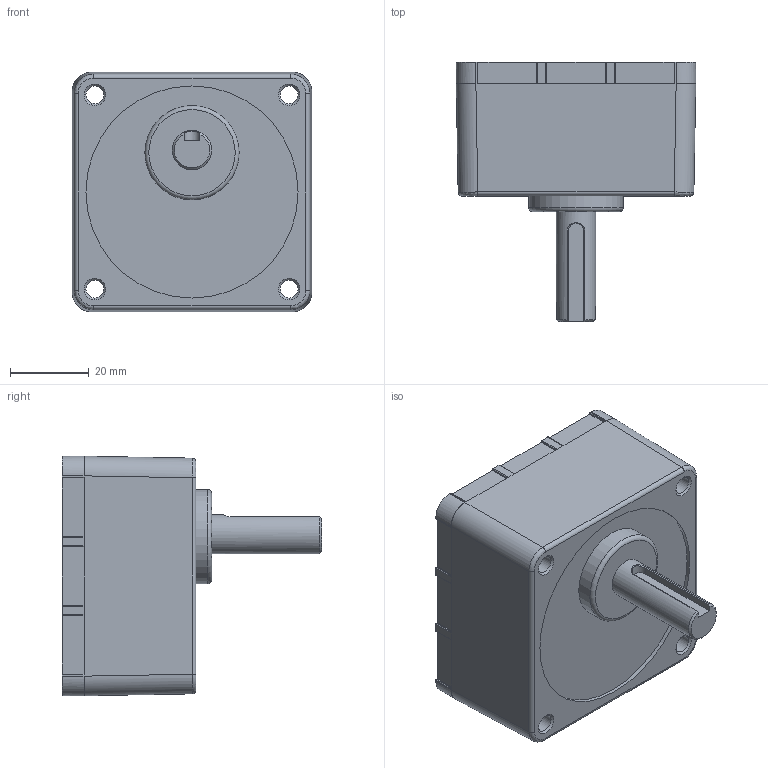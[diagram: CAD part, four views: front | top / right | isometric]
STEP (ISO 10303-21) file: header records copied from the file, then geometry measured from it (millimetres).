
FILE_DESCRIPTION((''),'2;1');
FILE_NAME('E:\2공장-도면\3D\STEP FILE\K6H(5~20)B.stp','2014-08-18T15:41:46',('輺'),(''),'Autodesk Inventor 2008','Autodesk Inventor 2008','');
FILE_SCHEMA(('CONFIG_CONTROL_DESIGN'));
Length unit declared in the file: millimetre
Products named in the file (1): 부품51
Bounding box: 61 x 66 x 61 mm (x, y, z)
Volume: 117334.5 mm3; surface area: 18890.8 mm2
Topology: 1 solids, 1 shells, 151 faces, 371 edges, 231 vertices
Faces by surface type: plane 86, cylinder 50, bspline 7, cone 7, torus 1
Full cylindrical faces by diameter (mm): 4.5 x4, 5 x4, 6 x1, 10 x1, 24 x1, 54 x2
Entity records: 4874 total; most frequent: CARTESIAN_POINT 1155, DIRECTION 739, ORIENTED_EDGE 700, EDGE_CURVE 350, AXIS2_PLACEMENT_3D 256, VERTEX_POINT 230, VECTOR 227, LINE 227
